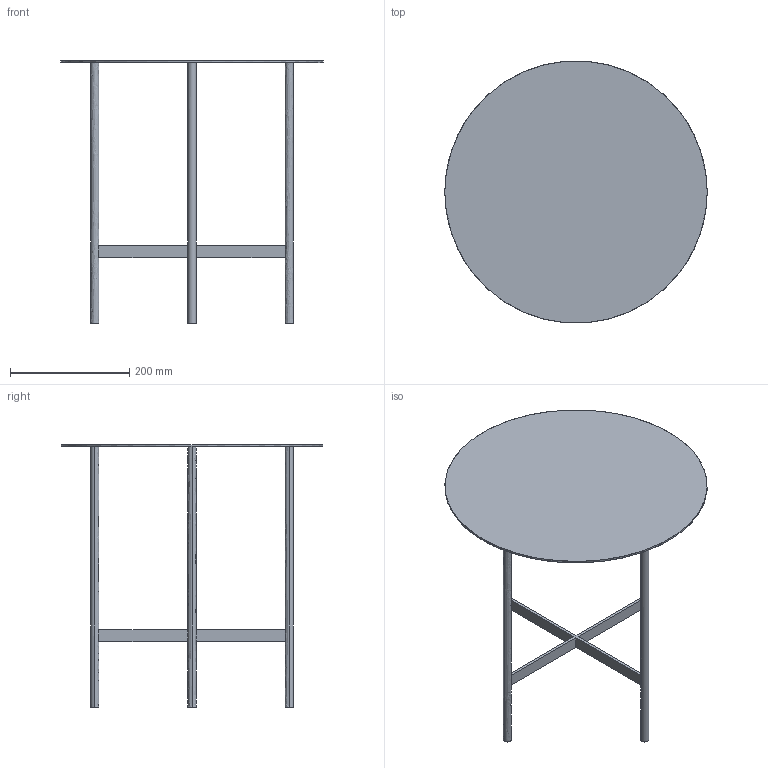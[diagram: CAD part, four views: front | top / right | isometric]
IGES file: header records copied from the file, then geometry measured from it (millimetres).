
Start section: Comment
Global section: file name: Beta-Small.igs; native system:  By UGS Corp.; preprocessor: XPlus GENERIC/IGES 3.0; author: Author; organization: Title; date: 20190912.094937; units: inch
Bounding box: 440 x 438.66 x 440 mm (x, y, z)
Surface area: 415554.5 mm2 (no closed solid volume)
Topology: 0 solids, 0 shells, 26 faces, 144 edges, 144 vertices
Faces by surface type: bspline 26
